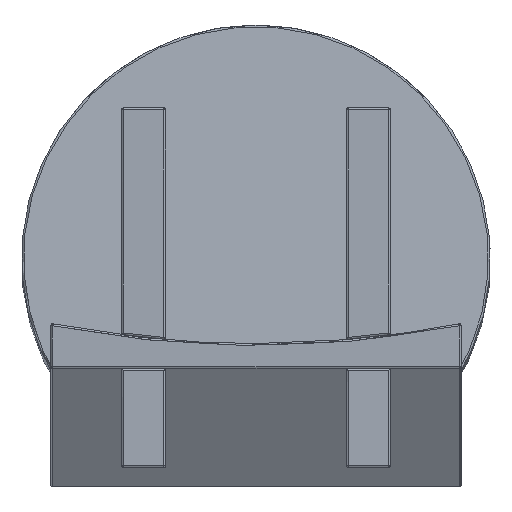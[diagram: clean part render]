
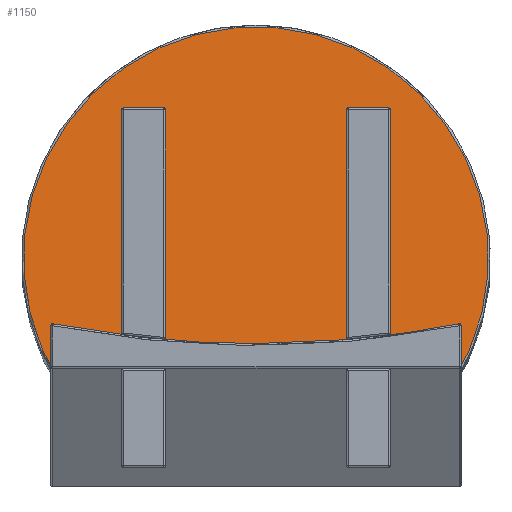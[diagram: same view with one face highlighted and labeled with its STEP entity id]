
A CAD part, front view. The second image highlights one B-rep face of the part: STEP entity #1150.
In plain terms, the highlighted planar face has unit normal (0, -0.996, 0.091).
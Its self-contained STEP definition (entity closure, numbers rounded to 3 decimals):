
#76 = CARTESIAN_POINT ( 'NONE',  ( 198.85, 249.084, -284.252 ) ) ;
#372 = CARTESIAN_POINT ( 'NONE',  ( -198.85, 249.084, -284.252 ) ) ;
#393 =( BOUNDED_CURVE ( )  B_SPLINE_CURVE ( 3, ( #76, #1027, #1543, #511 ),
 .UNSPECIFIED., .F., .T. ) 
 B_SPLINE_CURVE_WITH_KNOTS ( ( 4, 4 ),
 ( 2.962, 3.142 ),
 .UNSPECIFIED. ) 
 CURVE ( )  GEOMETRIC_REPRESENTATION_ITEM ( )  RATIONAL_B_SPLINE_CURVE ( ( 1., 0.997, 0.997, 1. ) ) 
 REPRESENTATION_ITEM ( '' )  );
#509 = VERTEX_POINT ( 'NONE', #1320 ) ;
#511 = CARTESIAN_POINT ( 'NONE',  ( 0., 247.441, -302.306 ) ) ;
#732 = EDGE_CURVE ( 'NONE', #2976, #2124, #2360, .T. ) ;
#909 = CARTESIAN_POINT ( 'NONE',  ( 0., 247.441, -302.306 ) ) ;
#965 = DIRECTION ( 'NONE',  ( 0., -0.091, -0.996 ) ) ;
#1027 = CARTESIAN_POINT ( 'NONE',  ( 133.193, 247.99, -296.272 ) ) ;
#1053 = AXIS2_PLACEMENT_3D ( 'NONE', #2952, #2699, #965 ) ;
#1150 = ADVANCED_FACE ( 'NONE', ( #1694 ), #2210, .T. ) ;
#1237 = DIRECTION ( 'NONE',  ( 0., -0.091, -0.996 ) ) ;
#1320 = CARTESIAN_POINT ( 'NONE',  ( 0., 247.441, -302.306 ) ) ;
#1332 = CARTESIAN_POINT ( 'NONE',  ( -198.85, 249.084, -284.252 ) ) ;
#1543 = CARTESIAN_POINT ( 'NONE',  ( 66.731, 247.441, -302.306 ) ) ;
#1621 = CARTESIAN_POINT ( 'NONE',  ( 198.85, 249.084, -284.252 ) ) ;
#1694 = FACE_OUTER_BOUND ( 'NONE', #2031, .T. ) ;
#1858 = CARTESIAN_POINT ( 'NONE',  ( -133.193, 247.99, -296.272 ) ) ;
#2020 = ORIENTED_EDGE ( 'NONE', *, *, #732, .T. ) ;
#2031 = EDGE_LOOP ( 'NONE', ( #3087, #2020, #2125 ) ) ;
#2124 = VERTEX_POINT ( 'NONE', #1332 ) ;
#2125 = ORIENTED_EDGE ( 'NONE', *, *, #2599, .F. ) ;
#2210 = PLANE ( 'NONE',  #2504 ) ;
#2360 = CIRCLE ( 'NONE', #1053, 238. ) ;
#2478 = EDGE_CURVE ( 'NONE', #2976, #509, #393, .T. ) ;
#2504 = AXIS2_PLACEMENT_3D ( 'NONE', #2939, #2691, #1237 ) ;
#2599 = EDGE_CURVE ( 'NONE', #509, #2124, #3190, .T. ) ;
#2609 = CARTESIAN_POINT ( 'NONE',  ( -66.731, 247.441, -302.306 ) ) ;
#2691 = DIRECTION ( 'NONE',  ( 0., -0.996, 0.091 ) ) ;
#2699 = DIRECTION ( 'NONE',  ( 0., -0.996, 0.091 ) ) ;
#2939 = CARTESIAN_POINT ( 'NONE',  ( 0., 282.689, 85. ) ) ;
#2952 = CARTESIAN_POINT ( 'NONE',  ( 0., 260.937, -154.012 ) ) ;
#2976 = VERTEX_POINT ( 'NONE', #1621 ) ;
#3087 = ORIENTED_EDGE ( 'NONE', *, *, #2478, .F. ) ;
#3190 =( BOUNDED_CURVE ( )  B_SPLINE_CURVE ( 3, ( #909, #2609, #1858, #372 ),
 .UNSPECIFIED., .F., .T. ) 
 B_SPLINE_CURVE_WITH_KNOTS ( ( 4, 4 ),
 ( 3.142, 3.321 ),
 .UNSPECIFIED. ) 
 CURVE ( )  GEOMETRIC_REPRESENTATION_ITEM ( )  RATIONAL_B_SPLINE_CURVE ( ( 1., 0.997, 0.997, 1. ) ) 
 REPRESENTATION_ITEM ( '' )  );
